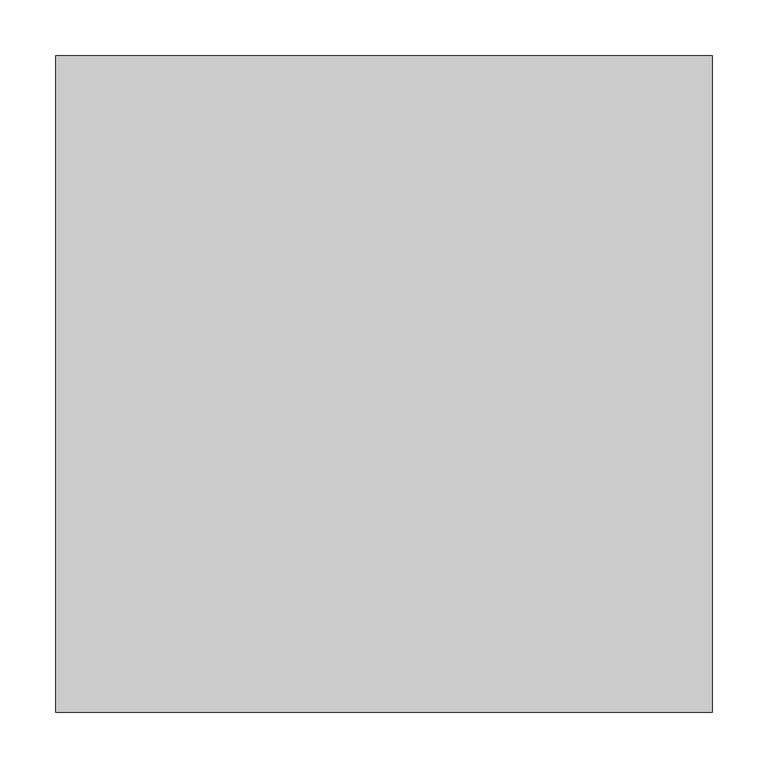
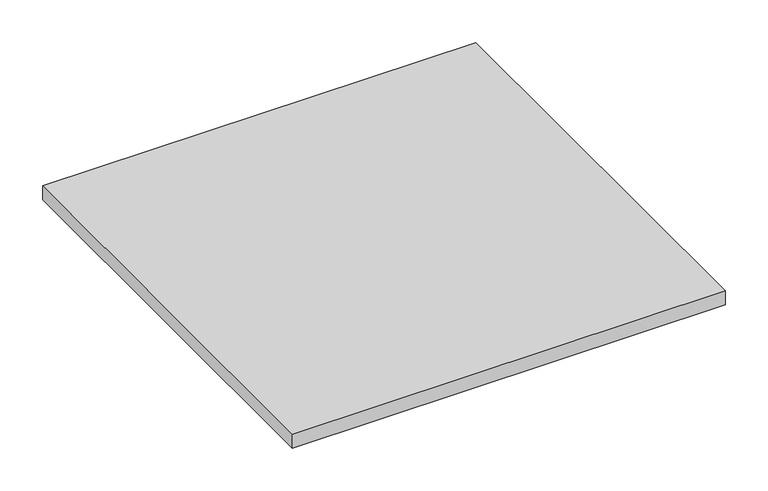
"""IFC4 building model written with IfcOpenShell, lengths in millimetres: light fixture geometry, GENILED_Светильник светодиодный_Грильято Advanced : Грильято Advanced 588x588x20 30Вт Опал."""

import ifcopenshell
import ifcopenshell.guid

model = None  # the IFC model being written
_history = None  # IfcOwnerHistory: only IFC2X3 demands one
_inside = {}  # id of a spatial element -> (the spatial element, [elements in it])
_under = {}  # id of a project, library or spatial element -> (it, [spatial elements below it])
_declared = {}  # id of a project -> (the project, [libraries it declares])
_typed = {}  # id of a type object -> (the type object, [elements of that type])
_made_of = {}  # id of a material, layer set ... -> (it, [elements and type objects made of it])


def new_model(schema):
    """Start an empty IFC model of exactly this schema.

    Asked for "IFC4X3", IfcOpenShell would pick the latest addendum, in which some entities
    have other attributes; the version numbers below select the first issue.
    IFC2X3 requires an IfcOwnerHistory on every rooted entity: one is made here for all.
    """
    global model, _history
    if schema == "IFC4X3":
        model = ifcopenshell.file(schema_version=(4, 3, 0, 0))
    else:
        model = ifcopenshell.file(schema=schema)
    _inside.clear()
    _under.clear()
    _declared.clear()
    _typed.clear()
    _made_of.clear()
    _history = None
    if model.schema == "IFC2X3":
        org = make("IfcOrganization", Name="unknown")
        user = make(
            "IfcPersonAndOrganization",
            ThePerson=make("IfcPerson", FamilyName="unknown"),
            TheOrganization=org,
        )
        app = make(
            "IfcApplication",
            ApplicationDeveloper=org,
            Version="unknown",
            ApplicationFullName="unknown",
            ApplicationIdentifier="unknown",
        )
        _history = make(
            "IfcOwnerHistory",
            OwningUser=user,
            OwningApplication=app,
            ChangeAction="ADDED",
            CreationDate=0,
        )
    return model


def make(cls, **values):
    """One entity of the class cls with the attributes given. An attribute that is None is left unset."""
    return model.create_entity(
        cls, **{name: value for name, value in values.items() if value is not None}
    )


def rooted(cls, **values):
    """An entity with a GlobalId (a new one), such as an element, a storey or a relation."""
    return make(cls, GlobalId=ifcopenshell.guid.new(), OwnerHistory=_history, **values)


def si_unit(unit_type, name, prefix=None):
    """IfcSIUnit, for example si_unit("LENGTHUNIT", "METRE", prefix="MILLI")."""
    return make("IfcSIUnit", UnitType=unit_type, Prefix=prefix, Name=name)


def assignment(units):
    """IfcUnitAssignment: the units of a project."""
    return None if units is None else make("IfcUnitAssignment", Units=units)


def point(xyz):
    """IfcCartesianPoint."""
    return None if xyz is None else make("IfcCartesianPoint", Coordinates=xyz)


def direction(xyz):
    """IfcDirection."""
    return None if xyz is None else make("IfcDirection", DirectionRatios=xyz)


def frame(location, z_axis=None, x_axis=None):
    """IfcAxis2Placement3D, a coordinate frame: its origin and axes. An axis left out is left unset."""
    return make(
        "IfcAxis2Placement3D",
        Location=point(location),
        Axis=direction(z_axis),
        RefDirection=direction(x_axis),
    )


def origin():
    """The frame at (0, 0, 0) with its axes left unset."""
    return frame((0.0, 0.0, 0.0))


def place(relative_to, where):
    """IfcLocalPlacement: puts the frame where relative to a parent placement (None: the world)."""
    return make(
        "IfcLocalPlacement", PlacementRelTo=relative_to, RelativePlacement=where
    )


def context(
    kind, dimensions, precision=None, world=None, true_north=None, identifier=None
):
    """IfcGeometricRepresentationContext, for example the 3D "Model" context."""
    return make(
        "IfcGeometricRepresentationContext",
        ContextIdentifier=identifier,
        ContextType=kind,
        CoordinateSpaceDimension=dimensions,
        Precision=precision,
        WorldCoordinateSystem=world,
        TrueNorth=true_north,
    )


def project(units=None, contexts=None):
    """IfcProject with its units and contexts."""
    return rooted(
        "IfcProject",
        Name="project",
        RepresentationContexts=contexts,
        UnitsInContext=assignment(units),
    )


def spatial(cls, under=None, at=None, **own):
    """A site, building, storey or space (cls), placed at a placement, below another one or the project."""
    s = rooted(cls, ObjectPlacement=at, **own)
    if under is not None:
        _under.setdefault(under.id(), (under, []))[1].append(s)
    return s


def faces_of(points, faces, orient=None, outer=None):
    """IfcFace entities. A face is a list of loops; a loop is a list of indices into points, from 0.

    orient and outer hold one flag for each loop. By default every Orientation is true, the
    first loop of a face is its IfcFaceOuterBound and the others are IfcFaceBound.
    """
    made = []
    for i, loops in enumerate(faces):
        bounds = []
        for j, loop in enumerate(loops):
            is_outer = j == 0 if outer is None else outer[i][j]
            bounds.append(
                make(
                    "IfcFaceOuterBound" if is_outer else "IfcFaceBound",
                    Bound=make("IfcPolyLoop", Polygon=[points[k] for k in loop]),
                    Orientation=True if orient is None else orient[i][j],
                )
            )
        made.append(make("IfcFace", Bounds=bounds))
    return made


def faceted_brep(points, faces, orient=None, outer=None, voids=None):
    """IfcFacetedBrep: a solid bounded by flat faces; with voids (closed shells), ...WithVoids."""
    shared = [point(p) for p in points]
    hull = make("IfcClosedShell", CfsFaces=faces_of(shared, faces, orient, outer))
    if voids is None:
        return make("IfcFacetedBrep", Outer=hull)
    return make(
        "IfcFacetedBrepWithVoids",
        Outer=hull,
        Voids=[
            make(cls, CfsFaces=faces_of(shared, fs, o, b)) for cls, fs, o, b in voids
        ],
    )


def shape(context_of_items, identifier, shape_type, items):
    """IfcShapeRepresentation: the items that make up one representation, for example the "Body"."""
    return make(
        "IfcShapeRepresentation",
        ContextOfItems=context_of_items,
        RepresentationIdentifier=identifier,
        RepresentationType=shape_type,
        Items=items,
    )


def source(mapping_origin, context_of_items, identifier, shape_type, items):
    """IfcRepresentationMap: a shape defined once, which mapped items show again and again."""
    return make(
        "IfcRepresentationMap",
        MappingOrigin=mapping_origin,
        MappedRepresentation=shape(context_of_items, identifier, shape_type, items),
    )


def transform(
    local_origin,
    x_axis=None,
    y_axis=None,
    z_axis=None,
    scale=None,
    scale2=None,
    scale3=None,
    uniform=True,
):
    """IfcCartesianTransformationOperator3D, or its non-uniform kind. x_axis, y_axis, z_axis: its Axis1, 2, 3."""
    if uniform:
        return make(
            "IfcCartesianTransformationOperator3D",
            Axis1=direction(x_axis),
            Axis2=direction(y_axis),
            LocalOrigin=point(local_origin),
            Scale=scale,
            Axis3=direction(z_axis),
        )
    return make(
        "IfcCartesianTransformationOperator3DnonUniform",
        Axis1=direction(x_axis),
        Axis2=direction(y_axis),
        LocalOrigin=point(local_origin),
        Scale=scale,
        Axis3=direction(z_axis),
        Scale2=scale2,
        Scale3=scale3,
    )


def mapped(mapping_source, mapping_target):
    """IfcMappedItem: shows the shape of a source again, moved by a transform."""
    return make(
        "IfcMappedItem", MappingSource=mapping_source, MappingTarget=mapping_target
    )


def made_of(thing, what):
    """Note that an element or type object is made of a material, layer set ...; save() writes the relation."""
    if what is not None:
        _made_of.setdefault(what.id(), (what, []))[1].append(thing)
    return thing


def element(
    cls,
    number,
    at=None,
    inside=None,
    cuts=None,
    type_object=None,
    material=None,
    context=None,
    identifier="Body",
    shape_type=None,
    held_by="IfcProductDefinitionShape",
    body=None,
    shapes=None,
    **own,
):
    """One element of the class cls, such as IfcWall. Its Tag is "e" and its number.

    at: its placement. inside: the storey or other place that contains it. cuts: it is an
    opening in that element (IfcRelVoidsElement). A single representation is given by context,
    identifier, shape_type and body (its items); several are given by shapes. held_by: the class
    of the entity that holds the representations. save() writes the other relations.
    """
    e = rooted(cls, Tag="e%d" % number, ObjectPlacement=at, **own)
    if body is not None:
        shapes = [shape(context, identifier, shape_type, body)]
    if shapes is not None:
        e.Representation = make(held_by, Representations=shapes)
    if inside is not None:
        _inside.setdefault(inside.id(), (inside, []))[1].append(e)
    if cuts is not None:
        rooted(
            "IfcRelVoidsElement", RelatingBuildingElement=cuts, RelatedOpeningElement=e
        )
    if type_object is not None:
        _typed.setdefault(type_object.id(), (type_object, []))[1].append(e)
    return made_of(e, material)


def aggregate(whole, parts):
    """IfcRelAggregates: a whole, such as a stair, and the parts it consists of."""
    return rooted("IfcRelAggregates", RelatingObject=whole, RelatedObjects=parts)


def save(model, path):
    """Write the relations noted so far, then the file.

    IfcRelAggregates (storeys below a building ...), IfcRelContainedInSpatialStructure (elements
    in a storey), IfcRelDefinesByType, IfcRelAssociatesMaterial and IfcRelDeclares: one each for
    every whole, place, type object, material and project.
    """
    for whole, parts in _under.values():
        aggregate(whole, parts)
    for where, things in _inside.values():
        rooted(
            "IfcRelContainedInSpatialStructure",
            RelatedElements=things,
            RelatingStructure=where,
        )
    for kind, things in _typed.values():
        rooted("IfcRelDefinesByType", RelatedObjects=things, RelatingType=kind)
    for what, things in _made_of.values():
        rooted("IfcRelAssociatesMaterial", RelatedObjects=things, RelatingMaterial=what)
    for by, libraries in _declared.values():
        rooted("IfcRelDeclares", RelatingContext=by, RelatedDefinitions=libraries)
    model.write(path)


def light_fixture_69443bf1(model_context):
    return source(origin(), model_context, "Body", "Brep", [
        faceted_brep([(294.0, 294.0, 20.0), (-294.0, 294.0, 20.0), (-294.0, -294.0, 20.0), (294.0, -294.0, 20.0), (294.0, 294.0, 0.0), (294.0, -294.0, 0.0), (-294.0, -294.0, 0.0), (-294.0, 294.0, 0.0), (284.0, 284.0, 0.0), (-284.0, 284.0, 0.0), (-284.0, -284.0, 0.0), (284.0, -284.0, 0.0), (284.0, -284.0, 5.0), (284.0, 284.0, 5.0), (-284.0, -284.0, 5.0), (-284.0, 284.0, 5.0)], [[[0, 1, 2, 3]], [[4, 5, 6, 7], [8, 9, 10, 11]], [[1, 0, 4, 7]], [[2, 1, 7, 6]], [[3, 2, 6, 5]], [[0, 3, 5, 4]], [[8, 11, 12, 13]], [[11, 10, 14, 12]], [[10, 9, 15, 14]], [[9, 8, 13, 15]], [[13, 12, 14, 15]]]),
    ])


if __name__ == "__main__":
    model = new_model("IFC4")
    model_context = context("Model", 3, world=origin())
    ifc_project = project(units=[si_unit("LENGTHUNIT", "METRE", prefix="MILLI")], contexts=[model_context])
    site = spatial("IfcSite", under=ifc_project)
    building = spatial("IfcBuilding", under=site)
    placement = place(None, origin())
    light_fixture_shape = light_fixture_69443bf1(model_context)
    element("IfcLightFixture", 1, ObjectType="GENILED_Светильник светодиодный_Грильято Advanced : Грильято Advanced 588x588x20 30Вт Опал", at=placement, inside=building, context=model_context, shape_type="MappedRepresentation", body=[
        mapped(light_fixture_shape, transform((0.0, 0.0, 0.0), x_axis=(1.0, 0.0, 0.0), y_axis=(0.0, 1.0, 0.0), z_axis=(0.0, 0.0, 1.0))),
    ])
    save(model, "model.ifc")
